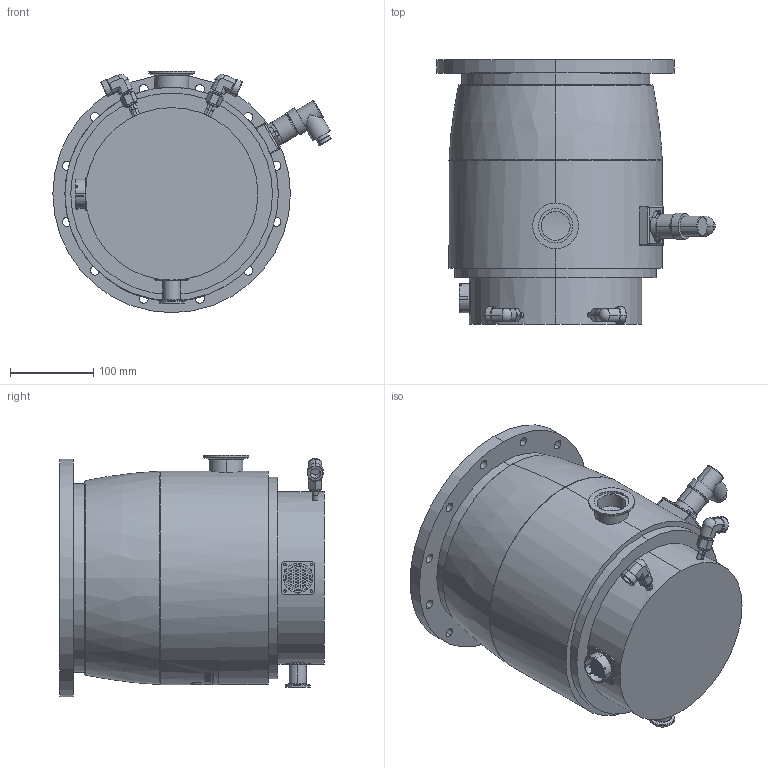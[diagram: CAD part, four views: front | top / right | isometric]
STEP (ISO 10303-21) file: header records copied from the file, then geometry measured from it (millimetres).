
FILE_DESCRIPTION((''),'2;1');
FILE_NAME('ENV-ATH1600M-P6562100','2007-10-24T',('NVARENNES'),(''),'PRO/ENGINEER BY PARAMETRIC TECHNOLOGY CORPORATION, 2006510','PRO/ENGINEER BY PARAMETRIC TECHNOLOGY CORPORATION, 2006510','');
FILE_SCHEMA(('CONFIG_CONTROL_DESIGN'));
Length unit declared in the file: millimetre
Products named in the file (1): ENV-ATH1600M-P6562100
Bounding box: 333.82 x 317.22 x 289.5 mm (x, y, z)
Volume: 14903269.5 mm3; surface area: 435553.1 mm2
Topology: 1 solids, 4 shells, 934 faces, 2356 edges, 1432 vertices
Faces by surface type: cylinder 358, plane 228, bspline 164, sphere 126, cone 40, torus 18
Entity records: 34979 total; most frequent: CARTESIAN_POINT 13132, ORIENTED_EDGE 4488, DIRECTION 4273, EDGE_CURVE 2244, AXIS2_PLACEMENT_3D 1698, VERTEX_POINT 1432, EDGE_LOOP 1110, FACE_OUTER_BOUND 934
